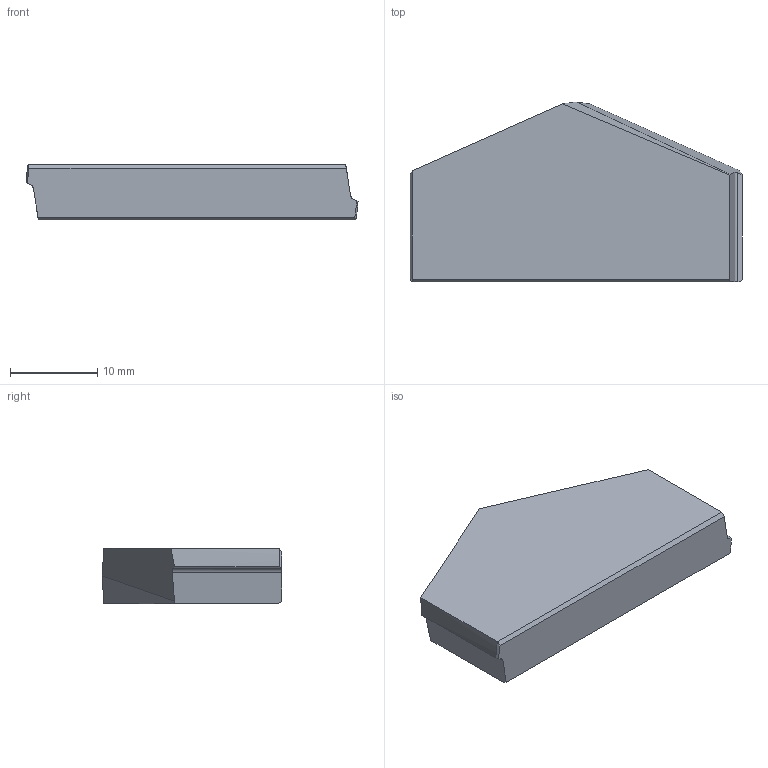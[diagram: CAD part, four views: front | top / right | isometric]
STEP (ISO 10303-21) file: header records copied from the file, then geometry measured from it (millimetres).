
FILE_DESCRIPTION (( 'STEP AP214' ), '1' );
FILE_NAME ('02-1061.STEP', '2022-06-24T05:44:44', ( '' ), ( '' ), 'SwSTEP 2.0', 'SolidWorks 2018', '' );
FILE_SCHEMA (( 'AUTOMOTIVE_DESIGN' ));
Length unit declared in the file: millimetre
Products named in the file (1): 02-1061
Bounding box: 38.04 x 20.6 x 6.4 mm (x, y, z)
Volume: 3854.4 mm3; surface area: 1846.4 mm2
Topology: 1 solids, 1 shells, 19 faces, 50 edges, 33 vertices
Faces by surface type: plane 13, cylinder 4, cone 2
Entity records: 620 total; most frequent: CARTESIAN_POINT 133, ORIENTED_EDGE 100, DIRECTION 86, EDGE_CURVE 50, LINE 34, VECTOR 34, VERTEX_POINT 33, AXIS2_PLACEMENT_3D 26
